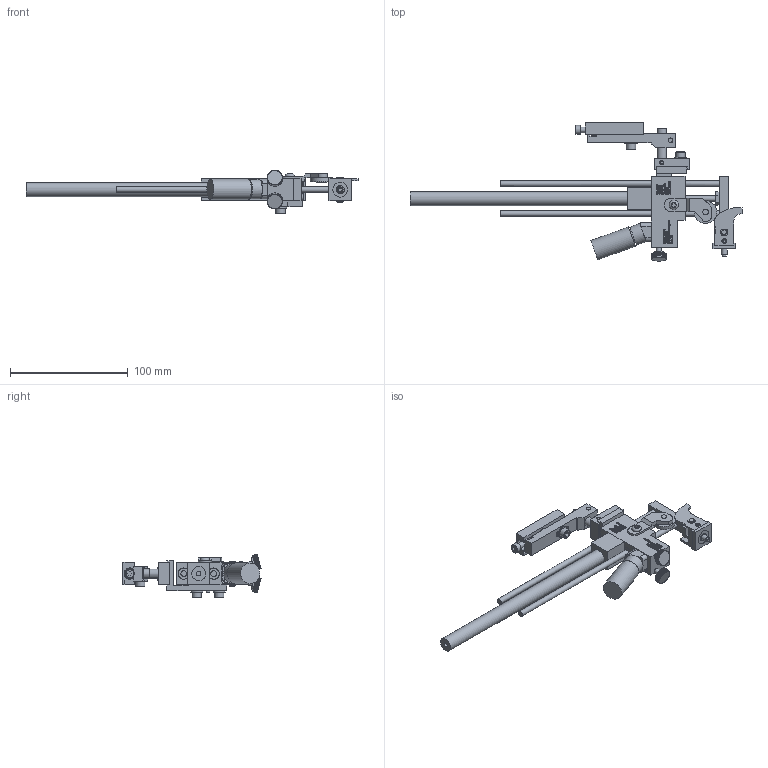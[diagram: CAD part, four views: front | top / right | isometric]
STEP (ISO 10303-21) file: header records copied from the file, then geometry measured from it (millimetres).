
FILE_DESCRIPTION((''),'2;1');
FILE_NAME('C:\Documents and Settings\Ron\My Documents\Inventor\Sprinter Drawing\Machines in Inventor\Model 44\Dot\1-eight\Ext Str\E4\Brkt\90\Model 44 E4 .125 dia dot 90 deg w Brkt.stp','2009-01-26T08:51:43',('Ron'),(''),'Autodesk Inventor 2008','Autodesk Inventor 2008','');
FILE_SCHEMA(('AUTOMOTIVE_DESIGN { 1 0 10303 214 1 1 1 1 }'));
Length unit declared in the file: inch
Products named in the file (1): Model 44 E4 .125 dia dot 90 deg w Brkt
Bounding box: 281.71 x 117.12 x 36.82 mm (x, y, z)
Volume: 118796.7 mm3; surface area: 57354.3 mm2
Topology: 29 solids, 29 shells, 6206 faces, 15399 edges, 9526 vertices
Faces by surface type: plane 4369, bspline 1314, cylinder 472, cone 46, torus 5
Full cylindrical faces by diameter (mm): 3.175 x5, 3.302 x1, 3.962 x1, 4.064 x7, 4.166 x1, 4.699 x1, 4.75 x4, 4.775 x1, 4.826 x8, 5.144 x1, 5.156 x5, 5.207 x2, 5.41 x2, 6.096 x1, 6.274 x2, 7.239 x1, 7.62 x1, 7.925 x7, 7.938 x1, 8.128 x1, 9.017 x1, 9.525 x2, 10.312 x4, 10.922 x1, 11.036 x1, 11.938 x2, 14.478 x1, 16.256 x1, 17.272 x1, 19.05 x1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
Entity records: 197589 total; most frequent: CARTESIAN_POINT 54002, ORIENTED_EDGE 30366, DIRECTION 23627, EDGE_CURVE 15183, VECTOR 11399, LINE 11399, VERTEX_POINT 9464, EDGE_LOOP 6765
